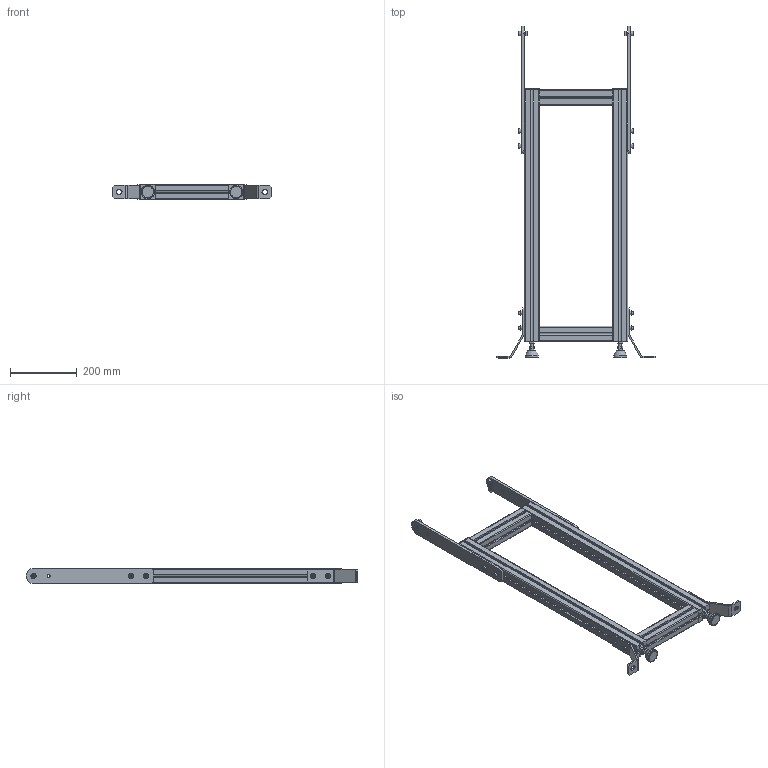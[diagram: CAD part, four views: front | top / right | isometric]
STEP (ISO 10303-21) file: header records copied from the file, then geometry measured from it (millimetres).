
FILE_DESCRIPTION (( 'STEP AP214' ), '1' );
FILE_NAME ('983-008-300.STEP', '2020-11-23T09:02:11', ( '' ), ( '' ), 'SwSTEP 2.0', 'SolidWorks 2020', '' );
FILE_SCHEMA (( 'AUTOMOTIVE_DESIGN' ));
Length unit declared in the file: millimetre
Products named in the file (15): 910-100; 982-017; RONDELLE_910-111; 910-002_910-235; 983-007; 935-055SV; CHASSIS JAMBAGE TB52 300_D‚faut[Brut d''usinage]; 905-020; EMBOUT_915-010; 905-021; 935-016; CHC THE_910-052H; 983-008-300; CHC M8X20 + RP8; 935-055
Assembly tree (22 placements, depth 4):
  983-008-300
    CHASSIS JAMBAGE TB52 300_D‚faut[Brut d''usinage]
    935-055  x2
      935-055SV
      910-100
      910-002_910-235
    EMBOUT_915-010  x2
    983-007  x2
      CHC M8X20 + RP8
        CHC THE_910-052H
        RONDELLE_910-111
      905-020
      905-021
      982-017
    935-016  x2
Bounding box: 476 x 996 x 45 mm (x, y, z)
Volume: 2926395.3 mm3; surface area: 860803.1 mm2
Topology: 36 solids, 36 shells, 784 faces, 1912 edges, 1216 vertices
Faces by surface type: plane 530, cylinder 160, cone 72, torus 12, sphere 8, bspline 2
Full cylindrical faces by diameter (mm): 6 x6, 6.8 x10, 7.3 x4, 7.98 x6, 8 x14, 8.4 x6, 8.5 x8, 9 x4, 13 x6, 16 x6, 17 x4, 34 x2, 40 x2
Entity records: 11805 total; most frequent: CARTESIAN_POINT 2065, DIRECTION 1858, ORIENTED_EDGE 1828, EDGE_CURVE 914, VECTOR 732, LINE 732, VERTEX_POINT 618, AXIS2_PLACEMENT_3D 563
